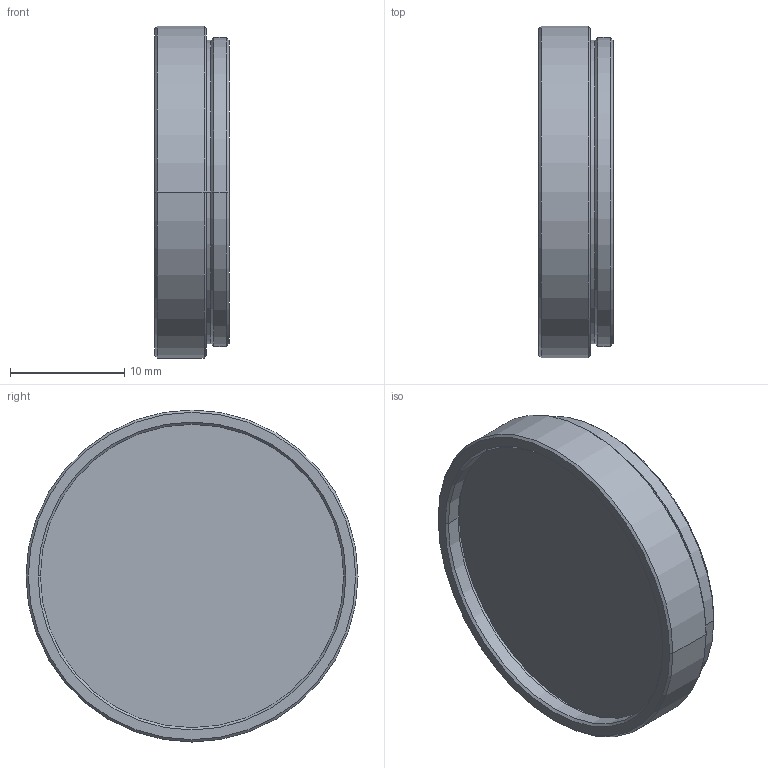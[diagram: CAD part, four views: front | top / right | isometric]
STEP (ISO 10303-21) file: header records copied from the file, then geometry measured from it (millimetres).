
FILE_DESCRIPTION (( 'STEP AP203' ), '1' );
FILE_NAME ('SV-□□□-270(GA_G533_R60series).STEP', '2017-08-22T00:42:44', ( 'miura_vst' ), ( '' ), 'SwSTEP 2.0', 'SolidWorks 2017', '' );
FILE_SCHEMA (( 'CONFIG_CONTROL_DESIGN' ));
Length unit declared in the file: millimetre
Products named in the file (1): SV-□□□-270(GA_G533_R60series)
Bounding box: 6.5 x 29 x 29 mm (x, y, z)
Volume: 3097.3 mm3; surface area: 2078.4 mm2
Topology: 1 solids, 1 shells, 25 faces, 48 edges, 28 vertices
Faces by surface type: cone 10, cylinder 10, plane 5
Entity records: 711 total; most frequent: DIRECTION 128, CARTESIAN_POINT 102, ORIENTED_EDGE 96, AXIS2_PLACEMENT_3D 54, EDGE_CURVE 48, CIRCLE 28, VERTEX_POINT 28, EDGE_LOOP 28
